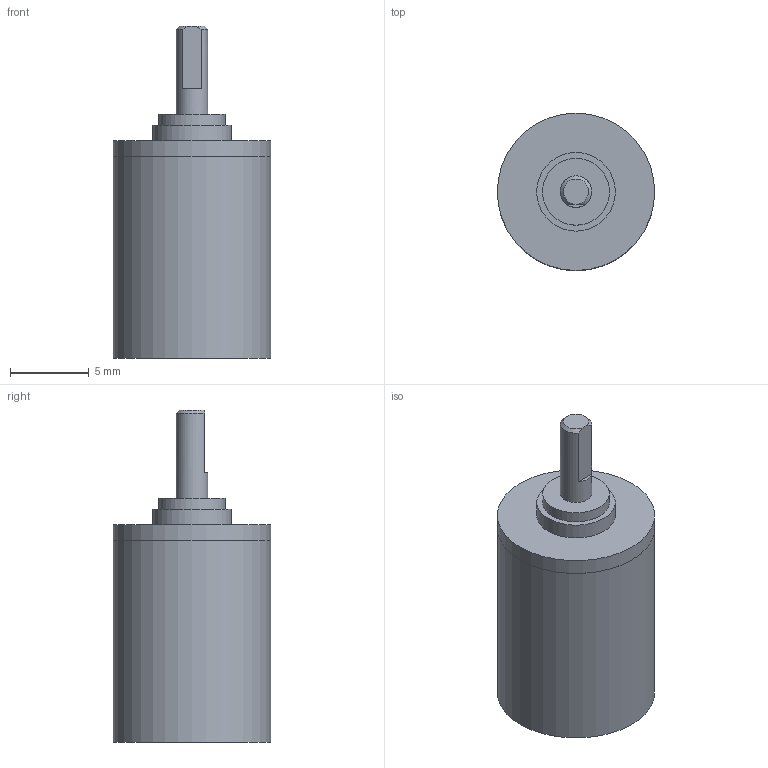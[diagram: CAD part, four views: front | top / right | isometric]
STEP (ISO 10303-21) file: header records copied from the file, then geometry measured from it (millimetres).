
FILE_DESCRIPTION(/* description */ (''),/* implementation_level */ '2;1');
FILE_NAME(/* name */ '10-1K_2.stp',/* time_stamp */ '2016-08-24T08:27:07+02:00',/* author */ ('DR. FRITZ FAULHABER GmbH & Co. KG'),/* organization */ ('DR. FRITZ FAULHABER GmbH & Co. KG'),/* preprocessor_version */ 'ST-DEVELOPER v16',/* originating_system */ 'SIEMENS PLM Software NX 10.0',/* authorisation */ '');
FILE_SCHEMA (('AUTOMOTIVE_DESIGN { 1 0 10303 214 3 1 1 1 }'));
Length unit declared in the file: millimetre
Products named in the file (1): H00000414_A
Bounding box: 10 x 10 x 21.1 mm (x, y, z)
Volume: 1042.6 mm3; surface area: 720.7 mm2
Topology: 1 solids, 1 shells, 24 faces, 42 edges, 28 vertices
Faces by surface type: plane 12, cylinder 10, cone 2
Full cylindrical faces by diameter (mm): 2 x1, 3.12 x1, 3.32 x1, 4.25 x1, 4.959 x1, 5 x1, 6 x1, 9.99 x1, 10 x2
Entity records: 532 total; most frequent: DIRECTION 97, CARTESIAN_POINT 91, ORIENTED_EDGE 54, AXIS2_PLACEMENT_3D 47, EDGE_LOOP 43, FACE_BOUND 38, EDGE_CURVE 27, ADVANCED_FACE 24
